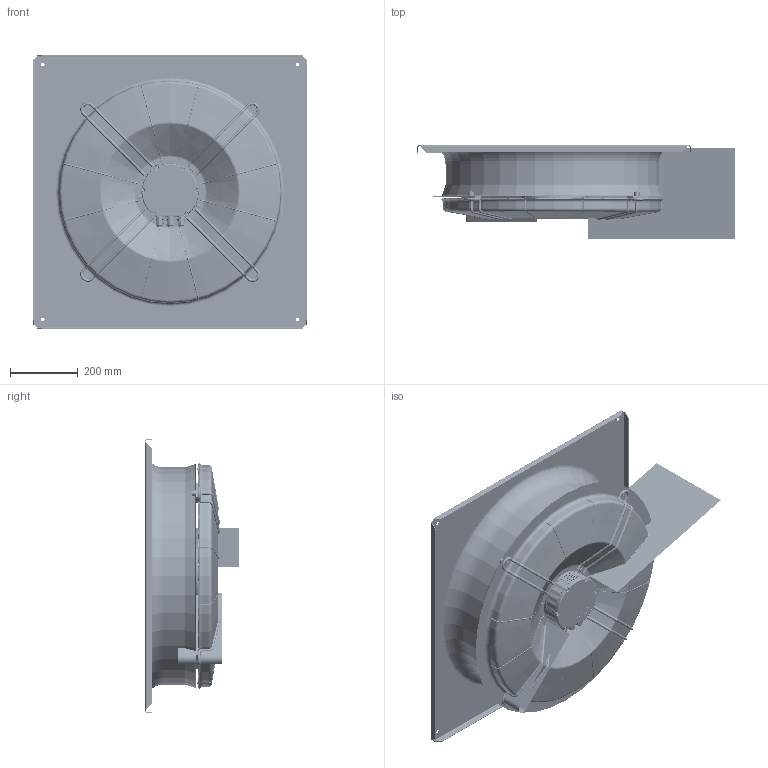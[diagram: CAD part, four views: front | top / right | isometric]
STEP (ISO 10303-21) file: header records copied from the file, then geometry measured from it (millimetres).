
FILE_DESCRIPTION((''),'2;1');
FILE_NAME('GTWA63HBK-M002-CUSTOMER-3D-STP_ASM','2025-05-07T12:00:35',('YICHING.CHIOU'),(''),'CREO PARAMETRIC BY PTC INC, 2022424','CREO PARAMETRIC BY PTC INC, 2022424','');
FILE_SCHEMA(('CONFIG_CONTROL_DESIGN'));
Products named in the file (31): 4101712700_21_1_2_3; 3323443000_2_1_2_3; NONE-981332_2_1_2_3; NONE-1112029_2_1_2_3; NONE-2533883_2_1_2_3; 3354182800_ASM_2_1_2_ASM; 3475535000-0001_2_1_2_3; ROTOR_ASM_3_1_2_ASM; NYLON_GLAND_3_1_2_3; NONE-389880_2_1_2_3; NONE-1105602_2_1_2_3; NONE-1696979_2_1_2_3; NONE-1897403_2_1_2_3; NONE-2216335_2_1_2_3; NONE-2493687_2_1_2_3; NONE-3811941_2_1_2_3; I_00_ASM_3_1_2_ASM; MU112EP5FA1BD_ASM_34_1_2_ASM; GTW063HBK21E-M001_1_ASM_21_1_2_ASM; GTW063EUC20E-M_IMP_P_HR_112___2; AL-PLATE-OD112-IMP-UP_1_1_2_3; AL-PLATE-OD112-IMP-LOW_1_1_2_3; GTW063EUC20E-M-IMP-OD112_ASM__2_ASM; BOLT-M6-L15-OD10-A_4_1_2_3; 4105044300-IMPELLER_COVER_3_1_3; TORX_M6_L12_5_1_2_3; GTW063HBK21E-M001_ASM_40_1_2_ASM; GRILL-630-AXIAL-REV02-A; SQUARE-WALLRING-H150; SQUARE-M8; GTWA63HBK-M002-CUSTOMER-3D-STP_ASM
Assembly tree (56 placements, depth 7):
  GTWA63HBK-M002-CUSTOMER-3D-STP_ASM
    GTW063HBK21E-M001_ASM_40_1_2_ASM
      GTW063HBK21E-M001_1_ASM_21_1_2_ASM
        MU112EP5FA1BD_ASM_34_1_2_ASM
          4101712700_21_1_2_3
          ROTOR_ASM_3_1_2_ASM
            3323443000_2_1_2_3
            3354182800_ASM_2_1_2_ASM
              NONE-981332_2_1_2_3
              NONE-1112029_2_1_2_3
              NONE-2533883_2_1_2_3
            3475535000-0001_2_1_2_3
          NYLON_GLAND_3_1_2_3  x3
          I_00_ASM_3_1_2_ASM
            NONE-389880_2_1_2_3
            NONE-1105602_2_1_2_3
            NONE-1696979_2_1_2_3
            NONE-1897403_2_1_2_3
            NONE-2216335_2_1_2_3
            NONE-2493687_2_1_2_3
            NONE-3811941_2_1_2_3
      GTW063EUC20E-M-IMP-OD112_ASM__2_ASM  x5
        GTW063EUC20E-M_IMP_P_HR_112___2
        AL-PLATE-OD112-IMP-UP_1_1_2_3
        AL-PLATE-OD112-IMP-LOW_1_1_2_3
      BOLT-M6-L15-OD10-A_4_1_2_3  x14
      4105044300-IMPELLER_COVER_3_1_3
      TORX_M6_L12_5_1_2_3  x5
    GRILL-630-AXIAL-REV02-A
    SQUARE-WALLRING-H150
    SQUARE-M8  x4
Bounding box: 934.13 x 274.15 x 805 mm (x, y, z)
Volume: 5231038.9 mm3; surface area: 3809940.6 mm2
Topology: 57 solids, 60 shells, 7663 faces, 21993 edges, 13882 vertices
Faces by surface type: cylinder 2487, plane 1793, torus 1194, bspline 978, cone 637, sphere 292, extrusion 282
Entity records: 312948 total; most frequent: CARTESIAN_POINT 168422, ORIENTED_EDGE 32402, DIRECTION 27768, EDGE_CURVE 16209, AXIS2_PLACEMENT_3D 11669, VERTEX_POINT 10216, CIRCLE 6890, EDGE_LOOP 6721
